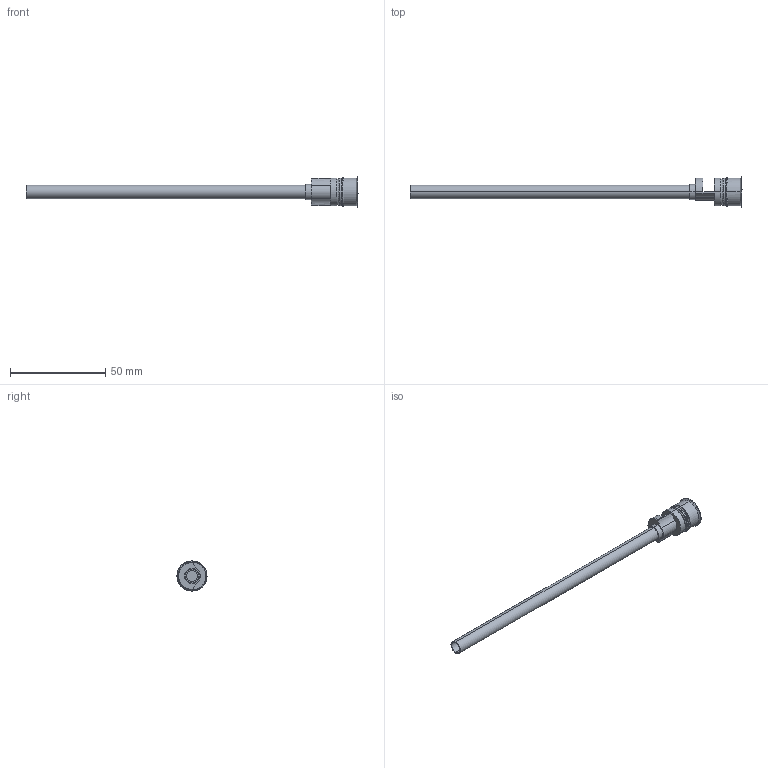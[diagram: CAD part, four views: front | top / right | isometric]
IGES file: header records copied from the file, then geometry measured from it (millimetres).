
Start section: START RECORD GO HERE.
Global section: file name: RF-14x150_7.igs; native system: DASSAULT SYSTEMES CATIA V5 R20 - www.3ds.com; preprocessor: CATIA Version 5 Release 20 ; author: Utente; organization: NB04-ASUS; date: 20210223.202730; units: millimetre
Bounding box: 174.5 x 15.8 x 15.8 mm (x, y, z)
Surface area: 8068.2 mm2 (no closed solid volume)
Topology: 0 solids, 0 shells, 68 faces, 384 edges, 384 vertices
Faces by surface type: revolution 42, plane 26
